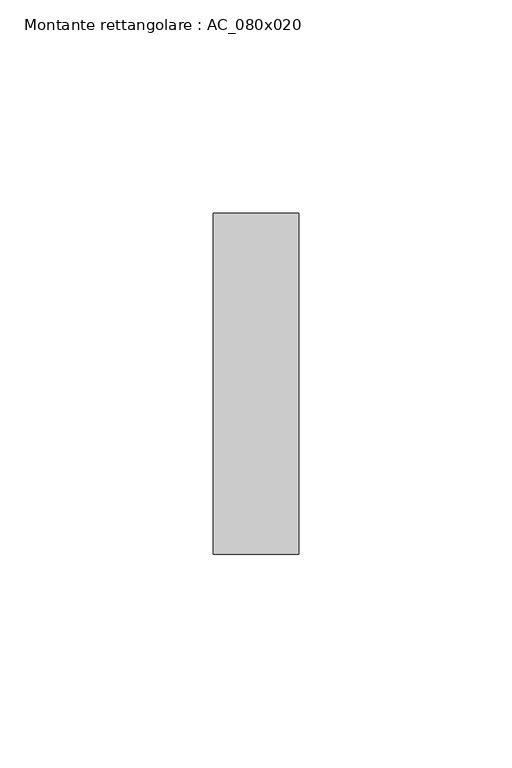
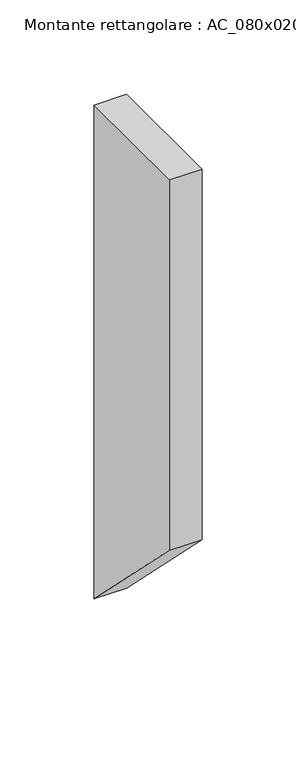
"""IFC4 building model written with IfcOpenShell, lengths in millimetres: member geometry, Montante rettangolare : AC_080x020."""

from ifc_helpers import new_model, si_unit, frame, origin, place, context, project, spatial, polyline, outline, extrude, source, transform, mapped, element, save


def montante_rettangolare_ac_080x020_c2d88d0b(model_context):
    return source(origin(), model_context, "Body", "SweptSolid", [
        extrude(outline(polyline([(-40.0, 0.0), (40.0, 0.0), (40.0, -320.0), (-40.0, -240.0), (-40.0, 0.0)])), frame((-20.0, 0.0, 0.0), z_axis=(1.0, 0.0, 0.0), x_axis=(0.0, 1.0, 0.0)), (0.0, 0.0, 1.0), 20.0),
    ])


if __name__ == "__main__":
    model = new_model("IFC4")
    model_context = context("Model", 3, world=origin())
    ifc_project = project(units=[si_unit("LENGTHUNIT", "METRE", prefix="MILLI")], contexts=[model_context])
    site = spatial("IfcSite", under=ifc_project)
    building = spatial("IfcBuilding", under=site)
    placement = place(None, origin())
    montante_rettangolare_ac_080x020_shape = montante_rettangolare_ac_080x020_c2d88d0b(model_context)
    element("IfcMember", 1, ObjectType="Montante rettangolare : AC_080x020", at=placement, inside=building, context=model_context, shape_type="MappedRepresentation", body=[
        mapped(montante_rettangolare_ac_080x020_shape, transform((0.0, 0.0, 0.0), x_axis=(1.0, 0.0, 0.0), y_axis=(0.0, 1.0, 0.0), z_axis=(0.0, 0.0, 1.0))),
    ])
    save(model, "model.ifc")
